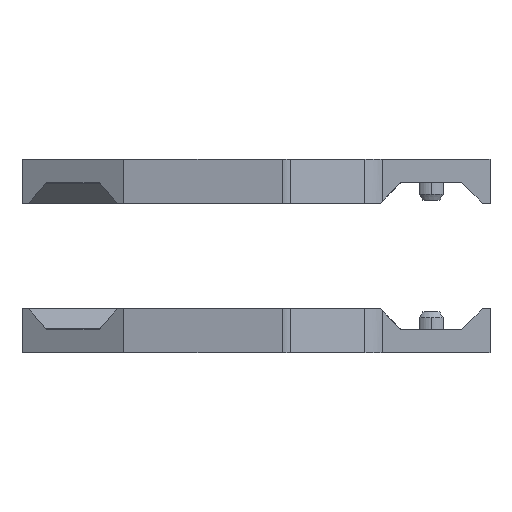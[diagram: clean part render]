
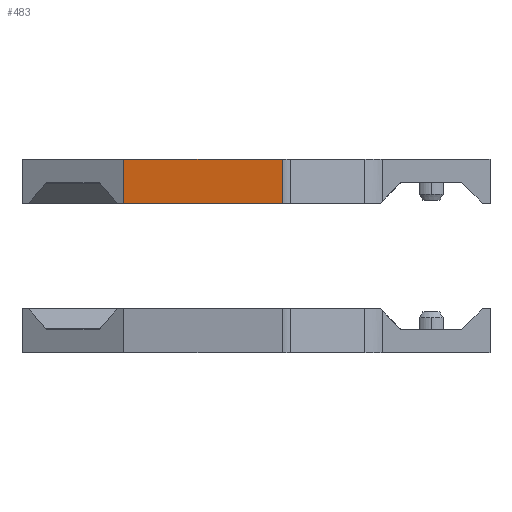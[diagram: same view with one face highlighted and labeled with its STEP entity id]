
A CAD part, left-side view. The second image highlights one B-rep face of the part: STEP entity #483.
In plain terms, the highlighted planar face has unit normal (-0.5, -0.866, 0).
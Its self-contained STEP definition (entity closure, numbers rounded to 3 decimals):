
#483=ADVANCED_FACE('Pad.1',(#1169),#1170,.T.);
#1169=FACE_OUTER_BOUND('',#2120,.T.);
#1170=PLANE('',#2121);
#2120=EDGE_LOOP('',(#3417,#3418,#3419,#3420));
#2121=AXIS2_PLACEMENT_3D('',#3421,#3422,#3423);
#3417=ORIENTED_EDGE('',*,*,#5683,.F.);
#3418=ORIENTED_EDGE('',*,*,#5607,.F.);
#3419=ORIENTED_EDGE('',*,*,#5709,.T.);
#3420=ORIENTED_EDGE('',*,*,#5710,.F.);
#3421=CARTESIAN_POINT('',(-221.31,104.679,0.0));
#3422=DIRECTION('',(-0.5,-0.866,0.0));
#3423=DIRECTION('',(0.866,-0.5,0.0));
#5607=EDGE_CURVE('',#6750,#6752,#6753,.T.);
#5683=EDGE_CURVE('',#6752,#6852,#6864,.T.);
#5709=EDGE_CURVE('',#6750,#6902,#6903,.T.);
#5710=EDGE_CURVE('',#6852,#6902,#6904,.F.);
#6750=VERTEX_POINT('',#8319);
#6752=VERTEX_POINT('',#8322);
#6753=LINE('',#8323,#8324);
#6852=VERTEX_POINT('',#8484);
#6864=LINE('',#8499,#8500);
#6902=VERTEX_POINT('',#8538);
#6903=LINE('',#8539,#8540);
#6904=LINE('',#8541,#8542);
#8319=CARTESIAN_POINT('',(-221.31,104.679,18.0));
#8322=CARTESIAN_POINT('',(-221.31,104.679,33.0));
#8323=CARTESIAN_POINT('',(-221.31,104.679,25.5));
#8324=VECTOR('',#10296,1.0);
#8484=CARTESIAN_POINT('',(-127.84,50.715,33.0));
#8499=CARTESIAN_POINT('',(-174.575,77.697,33.0));
#8500=VECTOR('',#10381,1.0);
#8538=CARTESIAN_POINT('',(-127.84,50.715,18.0));
#8539=CARTESIAN_POINT('',(-174.575,77.697,18.0));
#8540=VECTOR('',#10454,1.0);
#8541=CARTESIAN_POINT('',(-127.84,50.715,25.5));
#8542=VECTOR('',#10455,1.0);
#10296=DIRECTION('',(0.0,0.0,1.0));
#10381=DIRECTION('',(0.866,-0.5,0.0));
#10454=DIRECTION('',(0.866,-0.5,0.0));
#10455=DIRECTION('',(0.0,0.0,1.0));
